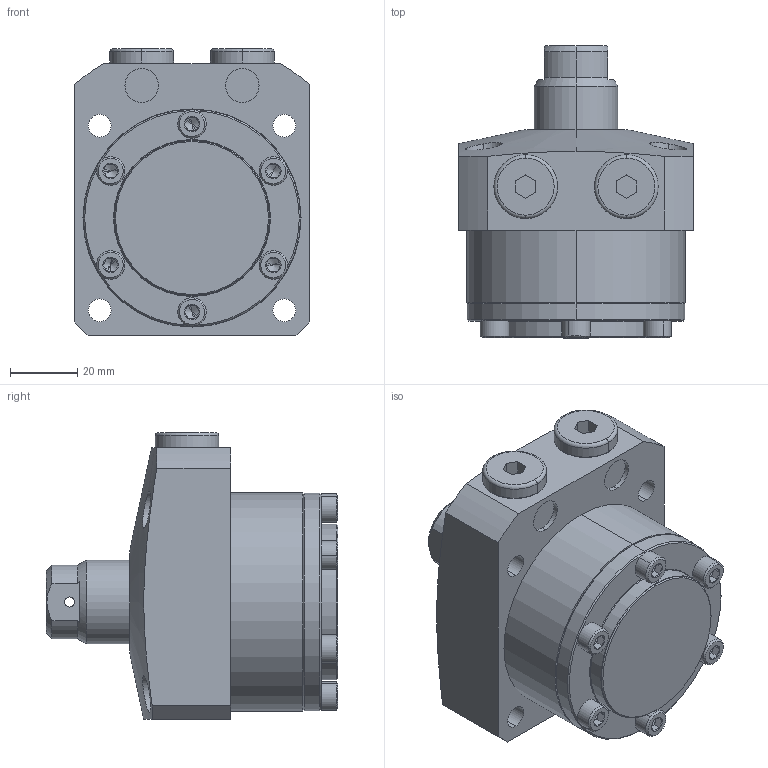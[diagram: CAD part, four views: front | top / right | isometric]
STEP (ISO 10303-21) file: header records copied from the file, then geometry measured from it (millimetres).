
FILE_DESCRIPTION (( 'STEP AP203' ), '1' );
FILE_NAME ('680650-CB-015.step', '2016-11-02T03:25:33', ( 'wxp' ), ( '' ), 'SwSTEP 2.0', 'SolidWorks 2011', '' );
FILE_SCHEMA (( 'CONFIG_CONTROL_DESIGN' ));
Length unit declared in the file: millimetre
Products named in the file (6): 680650-CB-015; 葩璃 LL065-CA-15-5^680650-CB-015; 葩璃 LL065-CA-15-4^680650-CB-015; 葩璃 LL065-CA-15-3^680650-CB-015; 葩璃 LL065-CA-15-2^680650-CB-015; 葩璃 LL065-CA-15-1^680650-CB-015
Assembly tree (11 placements, depth 2):
  680650-CB-015
    葩璃 LL065-CA-15-4^680650-CB-015  x6
    葩璃 LL065-CA-15-3^680650-CB-015
    葩璃 LL065-CA-15-5^680650-CB-015  x2
    葩璃 LL065-CA-15-2^680650-CB-015
    葩璃 LL065-CA-15-1^680650-CB-015
Bounding box: 70 x 87 x 85.5 mm (x, y, z)
Volume: 248093.3 mm3; surface area: 45423.6 mm2
Topology: 11 solids, 11 shells, 349 faces, 687 edges, 378 vertices
Faces by surface type: plane 140, cylinder 97, cone 96, torus 16
Entity records: 5952 total; most frequent: CARTESIAN_POINT 1349, DIRECTION 879, ORIENTED_EDGE 722, AXIS2_PLACEMENT_3D 368, EDGE_CURVE 361, VERTEX_POINT 221, EDGE_LOOP 210, CIRCLE 186
